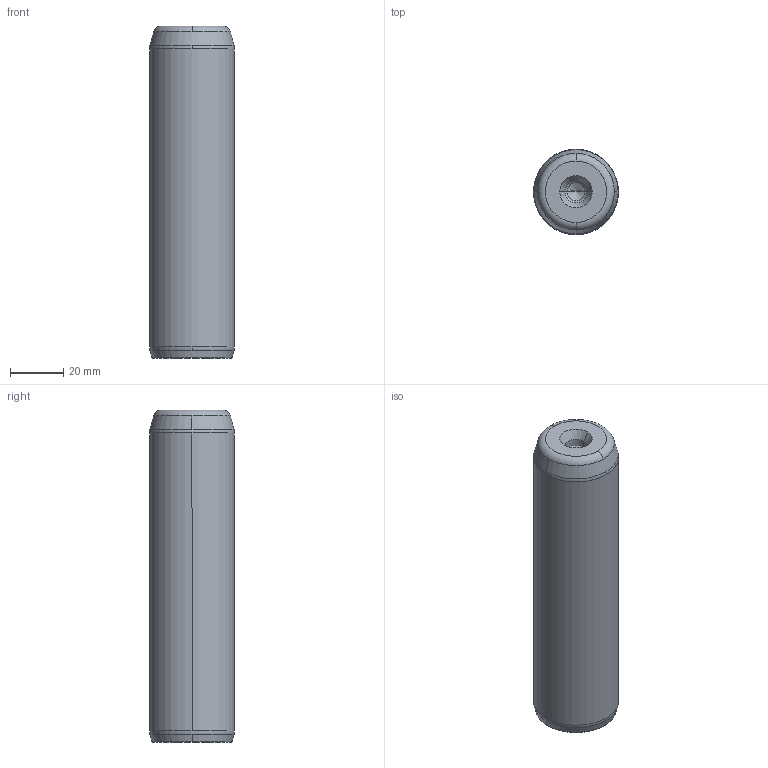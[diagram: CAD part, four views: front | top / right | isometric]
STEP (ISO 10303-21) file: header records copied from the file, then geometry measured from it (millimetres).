
FILE_DESCRIPTION((''),'2;1');
FILE_NAME('P10_032_125.stp','2008-12-23T15:03:08',(''),(''),'Mechanical Desktop 2009','Mechanical Desktop 2009',', , ');
FILE_SCHEMA(('CONFIG_CONTROL_DESIGN'));
Length unit declared in the file: millimetre
Products named in the file (5): Product; ProductAA; blmdl1; ProductA; blmdl1A
Assembly tree (2 placements, depth 3):
  Product
    ProductAA
      blmdl1
  ProductA
  blmdl1A
Bounding box: 32 x 32 x 125 mm (x, y, z)
Volume: 98306.3 mm3; surface area: 14322.3 mm2
Topology: 1 solids, 1 shells, 26 faces, 66 edges, 41 vertices
Faces by surface type: cone 10, torus 8, cylinder 6, plane 2
Entity records: 1012 total; most frequent: DIRECTION 170, CARTESIAN_POINT 134, ORIENTED_EDGE 128, AXIS2_PLACEMENT_3D 77, EDGE_CURVE 64, CIRCLE 48, VERTEX_POINT 41, EDGE_LOOP 27
